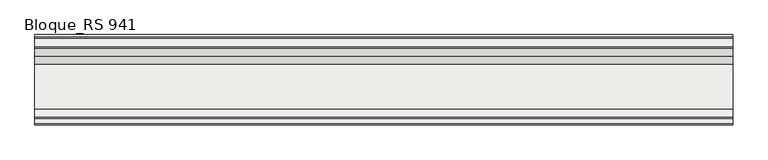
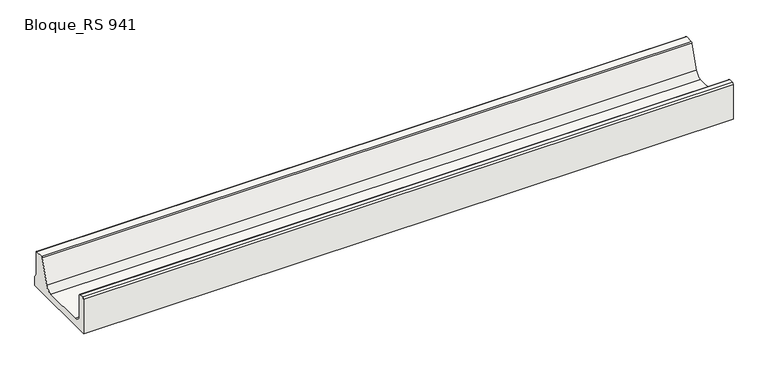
"""IFC4 building model written with IfcOpenShell, lengths in millimetres: slab geometry, ROSA GRES_RS 941 : Bloque_RS 941."""

from ifc_helpers import new_model, si_unit, point, frame, frame_2d, origin, place, context, project, spatial, polyline, circle_curve, trimmed, segment, composite_curve, outline, extrude, source, transform, mapped, element, save


def bloque_rs_941_dddf950f(model_context):
    return source(origin(), model_context, "Body", "SweptSolid", [
        extrude(outline(composite_curve([segment(polyline([(-290.7950654, 126.0), (-276.7901448, 126.0)]), True, "CONTINUOUS"), segment(trimmed(circle_curve(frame_2d((-276.7873115, 121.0029619)), 4.9970389), [point((-276.7901448, 126.0))], [point((-271.7950654, 121.221769))], False, "CARTESIAN"), True, "CONTINUOUS"), segment(polyline([(-271.7950654, 121.221769), (-271.7950654, 50.0)]), True, "CONTINUOUS"), segment(trimmed(circle_curve(frame_2d((-246.8549987, 49.9398968)), 24.9401391), [point((-271.7950654, 50.0))], [point((-246.7450654, 25.0))], True, "CARTESIAN"), True, "CONTINUOUS"), segment(polyline([(-246.7450654, 25.0), (-107.8238571, 25.0)]), True, "CONTINUOUS"), segment(trimmed(circle_curve(frame_2d((-107.6378199, 49.7467022)), 24.7474015), [point((-107.8238571, 25.0))], [point((-83.9689438, 42.5204875))], True, "CARTESIAN"), True, "CONTINUOUS"), segment(polyline([(-83.9689438, 42.5204875), (-58.8933079, 122.4959025)]), True, "CONTINUOUS"), segment(trimmed(circle_curve(frame_2d((-54.1351224, 121.0174239)), 4.9825925), [point((-58.8933079, 122.4959025))], [point((-54.1223252, 126.0))], False, "CARTESIAN"), True, "CONTINUOUS"), segment(polyline([(-54.1223252, 126.0), (-27.7946272, 126.0)]), True, "CONTINUOUS"), segment(trimmed(circle_curve(frame_2d((-27.7946272, 121.0)), 5.0), [point((-27.7946272, 126.0))], [point((-22.7946272, 121.0))], False, "CARTESIAN"), True, "CONTINUOUS"), segment(polyline([(-22.7946272, 121.0), (-22.7946272, 44.0), (-15.7946269, 32.0012714), (-15.7946269, 0.0), (-295.7950654, 0.0), (-295.7950654, 121.0)]), True, "CONTINUOUS"), segment(trimmed(circle_curve(frame_2d((-290.8048832, 121.0098178)), 4.9901918), [point((-295.7950654, 121.0))], [point((-290.7950654, 126.0))], False, "CARTESIAN"), True, "CONTINUOUS")], self_intersect=False)), frame((0.0, 0.0, 0.0), z_axis=(1.0, 0.0, 0.0), x_axis=(0.0, 1.0, 0.0)), (0.0, 0.0, 1.0), 2160.0),
    ])


if __name__ == "__main__":
    model = new_model("IFC4")
    model_context = context("Model", 3, world=origin())
    ifc_project = project(units=[si_unit("LENGTHUNIT", "METRE", prefix="MILLI")], contexts=[model_context])
    site = spatial("IfcSite", under=ifc_project)
    building = spatial("IfcBuilding", under=site)
    placement = place(None, origin())
    bloque_rs_941_shape = bloque_rs_941_dddf950f(model_context)
    element("IfcSlab", 1, ObjectType="ROSA GRES_RS 941 : Bloque_RS 941", at=placement, inside=building, context=model_context, shape_type="MappedRepresentation", body=[
        mapped(bloque_rs_941_shape, transform((0.0, 0.0, 0.0), x_axis=(1.0, 0.0, 0.0), y_axis=(0.0, 1.0, 0.0), z_axis=(0.0, 0.0, 1.0))),
    ])
    save(model, "model.ifc")
